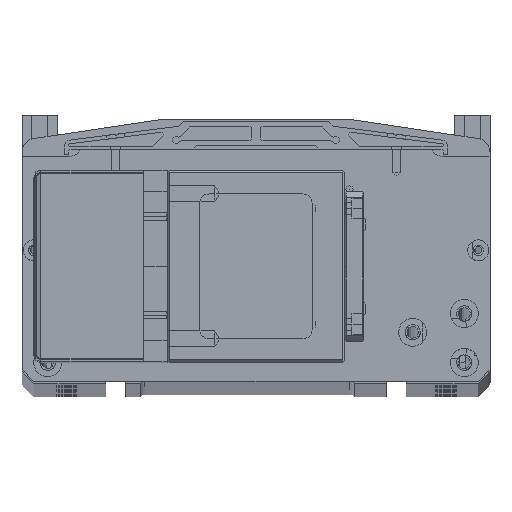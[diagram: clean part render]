
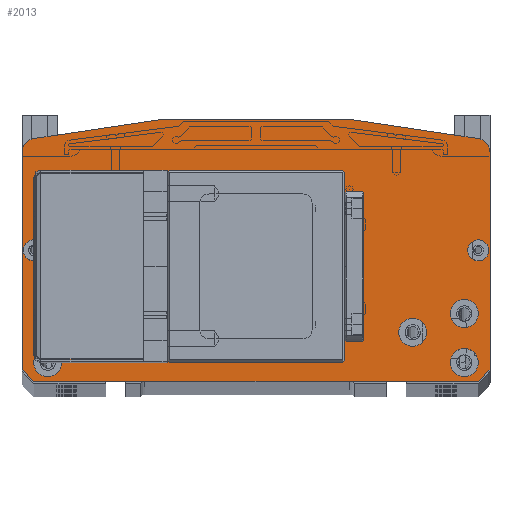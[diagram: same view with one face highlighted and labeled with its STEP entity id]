
A CAD part, top view. The second image highlights one B-rep face of the part: STEP entity #2013.
In plain terms, the highlighted planar face has unit normal (0, 0, 1).
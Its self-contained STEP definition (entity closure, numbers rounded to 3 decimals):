
#2013=ADVANCED_FACE('',(#6831,#6832,#6833,#6834,#6835,#6836,#6837,#6838,
#6839,#6840,#6841,#6842,#6843),#3170,.F.);
#3170=PLANE('',#21482);
#3661=LINE('',#29585,#5246);
#3662=LINE('',#29588,#5247);
#3663=LINE('',#29590,#5248);
#3664=LINE('',#29592,#5249);
#3665=LINE('',#29596,#5250);
#3666=LINE('',#29598,#5251);
#3667=LINE('',#29600,#5252);
#3668=LINE('',#29604,#5253);
#3669=LINE('',#29605,#5254);
#3670=LINE('',#29608,#5255);
#3671=LINE('',#29610,#5256);
#3672=LINE('',#29612,#5257);
#3673=LINE('',#29613,#5258);
#3674=LINE('',#29616,#5259);
#3675=LINE('',#29618,#5260);
#3676=LINE('',#29620,#5261);
#5246=VECTOR('',#23661,1.);
#5247=VECTOR('',#23662,1.);
#5248=VECTOR('',#23663,1.);
#5249=VECTOR('',#23664,1.);
#5250=VECTOR('',#23667,1.);
#5251=VECTOR('',#23668,1.);
#5252=VECTOR('',#23669,1.);
#5253=VECTOR('',#23672,1.);
#5254=VECTOR('',#23673,1.);
#5255=VECTOR('',#23674,1.);
#5256=VECTOR('',#23675,1.);
#5257=VECTOR('',#23676,1.);
#5258=VECTOR('',#23677,1.);
#5259=VECTOR('',#23678,1.);
#5260=VECTOR('',#23679,1.);
#5261=VECTOR('',#23680,1.);
#6831=FACE_BOUND('',#7669,.T.);
#6832=FACE_BOUND('',#7670,.T.);
#6833=FACE_BOUND('',#7671,.T.);
#6834=FACE_BOUND('',#7672,.T.);
#6835=FACE_BOUND('',#7673,.T.);
#6836=FACE_BOUND('',#7674,.T.);
#6837=FACE_BOUND('',#7675,.T.);
#6838=FACE_BOUND('',#7676,.T.);
#6839=FACE_BOUND('',#7677,.T.);
#6840=FACE_BOUND('',#7678,.T.);
#6841=FACE_BOUND('',#7679,.T.);
#6842=FACE_BOUND('',#7680,.T.);
#6843=FACE_BOUND('',#7681,.T.);
#7669=EDGE_LOOP('',(#9302));
#7670=EDGE_LOOP('',(#9303));
#7671=EDGE_LOOP('',(#9304));
#7672=EDGE_LOOP('',(#9305));
#7673=EDGE_LOOP('',(#9306));
#7674=EDGE_LOOP('',(#9307));
#7675=EDGE_LOOP('',(#9308));
#7676=EDGE_LOOP('',(#9309));
#7677=EDGE_LOOP('',(#9310));
#7678=EDGE_LOOP('',(#9311));
#7679=EDGE_LOOP('',(#9312,#9313,#9314,#9315,#9316,#9317,#9318,#9319,#9320,
#9321));
#7680=EDGE_LOOP('',(#9322,#9323,#9324,#9325));
#7681=EDGE_LOOP('',(#9326,#9327,#9328,#9329));
#9302=ORIENTED_EDGE('',*,*,#17432,.T.);
#9303=ORIENTED_EDGE('',*,*,#17433,.T.);
#9304=ORIENTED_EDGE('',*,*,#17434,.T.);
#9305=ORIENTED_EDGE('',*,*,#17435,.T.);
#9306=ORIENTED_EDGE('',*,*,#17436,.T.);
#9307=ORIENTED_EDGE('',*,*,#17437,.T.);
#9308=ORIENTED_EDGE('',*,*,#17438,.T.);
#9309=ORIENTED_EDGE('',*,*,#17439,.T.);
#9310=ORIENTED_EDGE('',*,*,#17440,.T.);
#9311=ORIENTED_EDGE('',*,*,#17441,.T.);
#9312=ORIENTED_EDGE('',*,*,#17442,.F.);
#9313=ORIENTED_EDGE('',*,*,#17443,.T.);
#9314=ORIENTED_EDGE('',*,*,#17444,.F.);
#9315=ORIENTED_EDGE('',*,*,#17445,.T.);
#9316=ORIENTED_EDGE('',*,*,#17446,.F.);
#9317=ORIENTED_EDGE('',*,*,#17447,.F.);
#9318=ORIENTED_EDGE('',*,*,#17448,.T.);
#9319=ORIENTED_EDGE('',*,*,#17449,.F.);
#9320=ORIENTED_EDGE('',*,*,#17450,.F.);
#9321=ORIENTED_EDGE('',*,*,#17451,.T.);
#9322=ORIENTED_EDGE('',*,*,#17452,.T.);
#9323=ORIENTED_EDGE('',*,*,#17453,.T.);
#9324=ORIENTED_EDGE('',*,*,#17454,.T.);
#9325=ORIENTED_EDGE('',*,*,#17455,.T.);
#9326=ORIENTED_EDGE('',*,*,#17456,.F.);
#9327=ORIENTED_EDGE('',*,*,#17457,.F.);
#9328=ORIENTED_EDGE('',*,*,#17458,.T.);
#9329=ORIENTED_EDGE('',*,*,#17459,.T.);
#15348=VERTEX_POINT('',#29566);
#15349=VERTEX_POINT('',#29568);
#15350=VERTEX_POINT('',#29570);
#15351=VERTEX_POINT('',#29572);
#15352=VERTEX_POINT('',#29574);
#15353=VERTEX_POINT('',#29576);
#15354=VERTEX_POINT('',#29578);
#15355=VERTEX_POINT('',#29580);
#15356=VERTEX_POINT('',#29582);
#15357=VERTEX_POINT('',#29584);
#15358=VERTEX_POINT('',#29586);
#15359=VERTEX_POINT('',#29587);
#15360=VERTEX_POINT('',#29589);
#15361=VERTEX_POINT('',#29591);
#15362=VERTEX_POINT('',#29593);
#15363=VERTEX_POINT('',#29595);
#15364=VERTEX_POINT('',#29597);
#15365=VERTEX_POINT('',#29599);
#15366=VERTEX_POINT('',#29601);
#15367=VERTEX_POINT('',#29603);
#15368=VERTEX_POINT('',#29606);
#15369=VERTEX_POINT('',#29607);
#15370=VERTEX_POINT('',#29609);
#15371=VERTEX_POINT('',#29611);
#15372=VERTEX_POINT('',#29614);
#15373=VERTEX_POINT('',#29615);
#15374=VERTEX_POINT('',#29617);
#15375=VERTEX_POINT('',#29619);
#17432=EDGE_CURVE('',#15348,#15348,#20455,.T.);
#17433=EDGE_CURVE('',#15349,#15349,#20456,.T.);
#17434=EDGE_CURVE('',#15350,#15350,#20457,.T.);
#17435=EDGE_CURVE('',#15351,#15351,#20458,.T.);
#17436=EDGE_CURVE('',#15352,#15352,#20459,.T.);
#17437=EDGE_CURVE('',#15353,#15353,#20460,.T.);
#17438=EDGE_CURVE('',#15354,#15354,#20461,.T.);
#17439=EDGE_CURVE('',#15355,#15355,#20462,.T.);
#17440=EDGE_CURVE('',#15356,#15356,#20463,.T.);
#17441=EDGE_CURVE('',#15357,#15357,#20464,.T.);
#17442=EDGE_CURVE('',#15358,#15359,#3661,.T.);
#17443=EDGE_CURVE('',#15358,#15360,#3662,.T.);
#17444=EDGE_CURVE('',#15361,#15360,#3663,.T.);
#17445=EDGE_CURVE('',#15361,#15362,#3664,.T.);
#17446=EDGE_CURVE('',#15363,#15362,#20465,.T.);
#17447=EDGE_CURVE('',#15364,#15363,#3665,.T.);
#17448=EDGE_CURVE('',#15364,#15365,#3666,.T.);
#17449=EDGE_CURVE('',#15366,#15365,#3667,.T.);
#17450=EDGE_CURVE('',#15367,#15366,#20466,.T.);
#17451=EDGE_CURVE('',#15367,#15359,#3668,.T.);
#17452=EDGE_CURVE('',#15368,#15369,#3669,.T.);
#17453=EDGE_CURVE('',#15369,#15370,#3670,.T.);
#17454=EDGE_CURVE('',#15370,#15371,#3671,.T.);
#17455=EDGE_CURVE('',#15371,#15368,#3672,.T.);
#17456=EDGE_CURVE('',#15372,#15373,#3673,.T.);
#17457=EDGE_CURVE('',#15374,#15372,#3674,.T.);
#17458=EDGE_CURVE('',#15374,#15375,#3675,.T.);
#17459=EDGE_CURVE('',#15375,#15373,#3676,.T.);
#20455=CIRCLE('',#21470,1.65);
#20456=CIRCLE('',#21471,1.65);
#20457=CIRCLE('',#21472,4.5);
#20458=CIRCLE('',#21473,4.5);
#20459=CIRCLE('',#21474,6.);
#20460=CIRCLE('',#21475,6.);
#20461=CIRCLE('',#21476,6.);
#20462=CIRCLE('',#21477,6.);
#20463=CIRCLE('',#21478,6.);
#20464=CIRCLE('',#21479,6.);
#20465=CIRCLE('',#21480,6.);
#20466=CIRCLE('',#21481,6.);
#21470=AXIS2_PLACEMENT_3D('',#29565,#23641,#23642);
#21471=AXIS2_PLACEMENT_3D('',#29567,#23643,#23644);
#21472=AXIS2_PLACEMENT_3D('',#29569,#23645,#23646);
#21473=AXIS2_PLACEMENT_3D('',#29571,#23647,#23648);
#21474=AXIS2_PLACEMENT_3D('',#29573,#23649,#23650);
#21475=AXIS2_PLACEMENT_3D('',#29575,#23651,#23652);
#21476=AXIS2_PLACEMENT_3D('',#29577,#23653,#23654);
#21477=AXIS2_PLACEMENT_3D('',#29579,#23655,#23656);
#21478=AXIS2_PLACEMENT_3D('',#29581,#23657,#23658);
#21479=AXIS2_PLACEMENT_3D('',#29583,#23659,#23660);
#21480=AXIS2_PLACEMENT_3D('',#29594,#23665,#23666);
#21481=AXIS2_PLACEMENT_3D('',#29602,#23670,#23671);
#21482=AXIS2_PLACEMENT_3D('',#29621,#23681,#23682);
#23641=DIRECTION('',(0.,0.,-1.));
#23642=DIRECTION('',(1.,0.,0.));
#23643=DIRECTION('',(0.,0.,-1.));
#23644=DIRECTION('',(1.,0.,0.));
#23645=DIRECTION('',(0.,0.,-1.));
#23646=DIRECTION('',(1.,0.,0.));
#23647=DIRECTION('',(0.,0.,-1.));
#23648=DIRECTION('',(1.,0.,0.));
#23649=DIRECTION('',(0.,0.,-1.));
#23650=DIRECTION('',(1.,0.,0.));
#23651=DIRECTION('',(0.,0.,-1.));
#23652=DIRECTION('',(1.,0.,0.));
#23653=DIRECTION('',(0.,0.,-1.));
#23654=DIRECTION('',(1.,0.,0.));
#23655=DIRECTION('',(0.,0.,-1.));
#23656=DIRECTION('',(1.,0.,0.));
#23657=DIRECTION('',(0.,0.,-1.));
#23658=DIRECTION('',(1.,0.,0.));
#23659=DIRECTION('',(0.,0.,-1.));
#23660=DIRECTION('',(1.,0.,0.));
#23661=DIRECTION('',(-0.707,0.707,0.));
#23662=DIRECTION('',(1.,0.,0.));
#23663=DIRECTION('',(-0.707,-0.707,0.));
#23664=DIRECTION('',(0.,1.,0.));
#23665=DIRECTION('',(0.,0.,-1.));
#23666=DIRECTION('',(0.148,0.989,0.));
#23667=DIRECTION('',(0.989,-0.148,0.));
#23668=DIRECTION('',(-1.,0.,0.));
#23669=DIRECTION('',(0.989,0.148,0.));
#23670=DIRECTION('',(0.,0.,-1.));
#23671=DIRECTION('',(-1.,0.,0.));
#23672=DIRECTION('',(0.,-1.,0.));
#23673=DIRECTION('',(0.,1.,0.));
#23674=DIRECTION('',(1.,0.,0.));
#23675=DIRECTION('',(0.,-1.,0.));
#23676=DIRECTION('',(-1.,0.,0.));
#23677=DIRECTION('',(0.,1.,0.));
#23678=DIRECTION('',(1.,0.,0.));
#23679=DIRECTION('',(0.,1.,0.));
#23680=DIRECTION('',(1.,0.,0.));
#23681=DIRECTION('',(0.,0.,-1.));
#23682=DIRECTION('',(-1.,0.,0.));
#29565=CARTESIAN_POINT('',(-42.,33.,463.));
#29566=CARTESIAN_POINT('',(-40.35,33.,463.));
#29567=CARTESIAN_POINT('',(-42.,69.,463.));
#29568=CARTESIAN_POINT('',(-40.35,69.,463.));
#29569=CARTESIAN_POINT('',(-95.,58.,463.));
#29570=CARTESIAN_POINT('',(-90.5,58.,463.));
#29571=CARTESIAN_POINT('',(95.,58.,463.));
#29572=CARTESIAN_POINT('',(99.5,58.,463.));
#29573=CARTESIAN_POINT('',(-67.,23.,463.));
#29574=CARTESIAN_POINT('',(-61.,23.,463.));
#29575=CARTESIAN_POINT('',(67.,23.,463.));
#29576=CARTESIAN_POINT('',(73.,23.,463.));
#29577=CARTESIAN_POINT('',(-89.,31.,463.));
#29578=CARTESIAN_POINT('',(-83.,31.,463.));
#29579=CARTESIAN_POINT('',(89.,31.,463.));
#29580=CARTESIAN_POINT('',(95.,31.,463.));
#29581=CARTESIAN_POINT('',(-89.,10.,463.));
#29582=CARTESIAN_POINT('',(-83.,10.,463.));
#29583=CARTESIAN_POINT('',(89.,10.,463.));
#29584=CARTESIAN_POINT('',(95.,10.,463.));
#29585=CARTESIAN_POINT('',(-95.,2.,463.));
#29586=CARTESIAN_POINT('',(-95.,2.,463.));
#29587=CARTESIAN_POINT('',(-100.,7.,463.));
#29588=CARTESIAN_POINT('',(67.5,2.,463.));
#29589=CARTESIAN_POINT('',(95.,2.,463.));
#29590=CARTESIAN_POINT('',(100.,7.,463.));
#29591=CARTESIAN_POINT('',(100.,7.,463.));
#29592=CARTESIAN_POINT('',(100.,7.,463.));
#29593=CARTESIAN_POINT('',(100.,99.833,463.));
#29594=CARTESIAN_POINT('',(94.,99.833,463.));
#29595=CARTESIAN_POINT('',(94.89,105.766,463.));
#29596=CARTESIAN_POINT('',(40.,114.,463.));
#29597=CARTESIAN_POINT('',(40.,114.,463.));
#29598=CARTESIAN_POINT('',(40.,114.,463.));
#29599=CARTESIAN_POINT('',(-40.,114.,463.));
#29600=CARTESIAN_POINT('',(-94.89,105.766,463.));
#29601=CARTESIAN_POINT('',(-94.89,105.766,463.));
#29602=CARTESIAN_POINT('',(-94.,99.833,463.));
#29603=CARTESIAN_POINT('',(-100.,99.833,463.));
#29604=CARTESIAN_POINT('',(-100.,99.833,463.));
#29605=CARTESIAN_POINT('',(-37.,91.,463.));
#29606=CARTESIAN_POINT('',(-37.,11.,463.));
#29607=CARTESIAN_POINT('',(-37.,91.,463.));
#29608=CARTESIAN_POINT('',(37.,91.,463.));
#29609=CARTESIAN_POINT('',(37.,91.,463.));
#29610=CARTESIAN_POINT('',(37.,11.,463.));
#29611=CARTESIAN_POINT('',(37.,11.,463.));
#29612=CARTESIAN_POINT('',(-37.,11.,463.));
#29613=CARTESIAN_POINT('',(45.5,80.466,463.));
#29614=CARTESIAN_POINT('',(45.5,21.534,463.));
#29615=CARTESIAN_POINT('',(45.5,80.466,463.));
#29616=CARTESIAN_POINT('',(45.5,21.534,463.));
#29617=CARTESIAN_POINT('',(38.5,21.534,463.));
#29618=CARTESIAN_POINT('',(38.5,80.466,463.));
#29619=CARTESIAN_POINT('',(38.5,80.466,463.));
#29620=CARTESIAN_POINT('',(45.5,80.466,463.));
#29621=CARTESIAN_POINT('',(0.,2.,463.));
